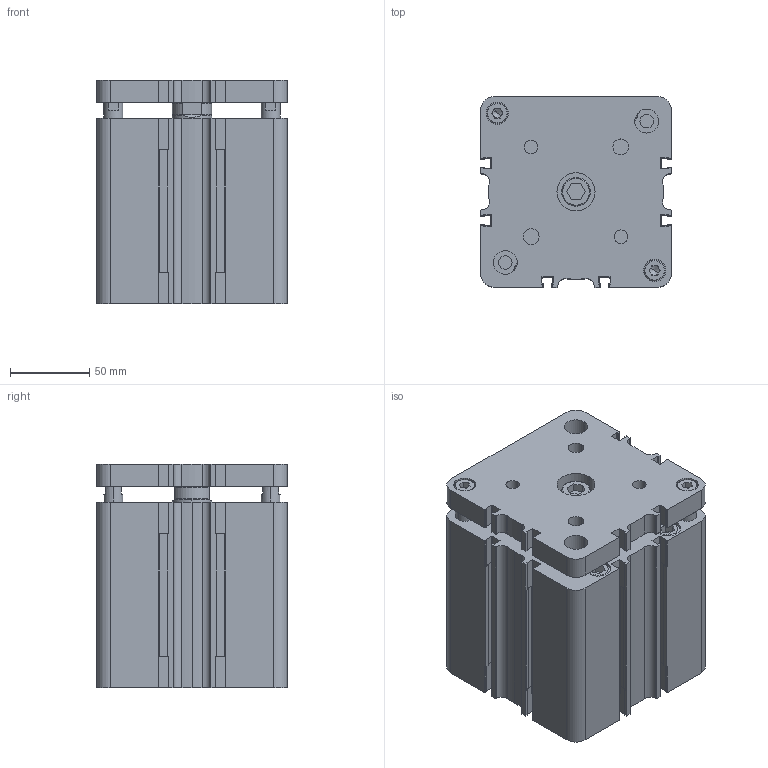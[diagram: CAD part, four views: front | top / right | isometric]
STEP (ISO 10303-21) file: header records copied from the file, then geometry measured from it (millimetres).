
FILE_DESCRIPTION (( 'STEP AP203' ), '1' );
FILE_NAME ('WFA1000050A.step', '2013-04-22T07:26:07', ( '' ), ( '' ), 'SwSTEP 2.0', 'SolidWorks 2012', '' );
FILE_SCHEMA (( 'CONFIG_CONTROL_DESIGN' ));
Length unit declared in the file: millimetre
Products named in the file (1): WFA1000050A
Bounding box: 120 x 120 x 141 mm (x, y, z)
Volume: 1783112.7 mm3; surface area: 148339.8 mm2
Topology: 1 solids, 1 shells, 771 faces, 2088 edges, 1345 vertices
Faces by surface type: plane 394, cylinder 325, cone 30, torus 22
Entity records: 24420 total; most frequent: DIRECTION 4359, CARTESIAN_POINT 4339, ORIENTED_EDGE 4136, EDGE_CURVE 2068, AXIS2_PLACEMENT_3D 1537, VERTEX_POINT 1345, LINE 1285, VECTOR 1285
